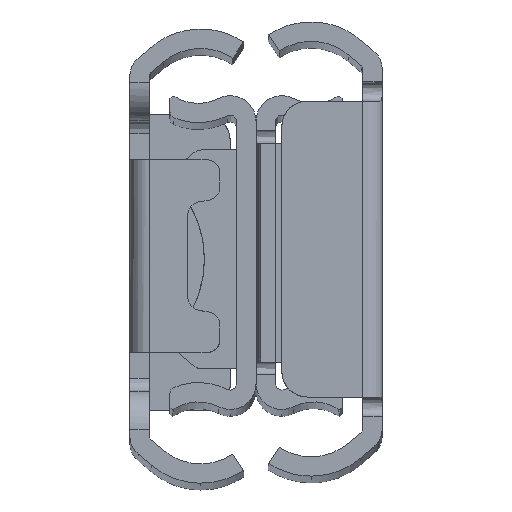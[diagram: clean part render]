
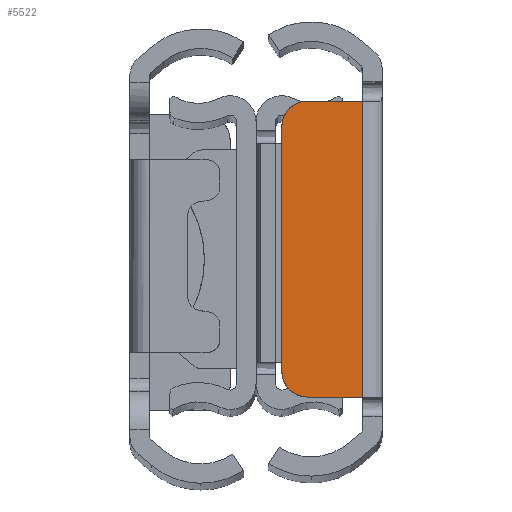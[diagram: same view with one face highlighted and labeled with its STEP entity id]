
A CAD part, top view. The second image highlights one B-rep face of the part: STEP entity #5522.
In plain terms, the highlighted planar face has unit normal (0, 0, 1) as drawn and (0, 0, -1) by its records, which use the part's own axes.
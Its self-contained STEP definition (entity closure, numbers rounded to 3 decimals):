
#39 = ORIENTED_EDGE ( 'NONE', *, *, #3268, .F. ) ;
#94 = CARTESIAN_POINT ( 'NONE',  ( 218.1, -11.5, 203.2 ) ) ;
#169 = EDGE_CURVE ( 'NONE', #6152, #2858, #4601, .T. ) ;
#181 = CARTESIAN_POINT ( 'NONE',  ( 213.538, -11.5, 203.2 ) ) ;
#212 = CARTESIAN_POINT ( 'NONE',  ( 212.052, -10.507, 203.2 ) ) ;
#251 = CARTESIAN_POINT ( 'NONE',  ( 216.667, 11.5, 203.2 ) ) ;
#382 = CARTESIAN_POINT ( 'NONE',  ( 213.538, 11.5, 203.2 ) ) ;
#409 = CARTESIAN_POINT ( 'NONE',  ( 213.8, -11.5, 203.2 ) ) ;
#457 = VERTEX_POINT ( 'NONE', #2173 ) ;
#558 = CARTESIAN_POINT ( 'NONE',  ( 211.8, 9.5, 203.2 ) ) ;
#662 = ORIENTED_EDGE ( 'NONE', *, *, #169, .F. ) ;
#681 = EDGE_LOOP ( 'NONE', ( #662, #3090, #39, #2305, #1978, #1185 ) ) ;
#723 = CARTESIAN_POINT ( 'NONE',  ( 212.201, -10.729, 203.2 ) ) ;
#744 = CARTESIAN_POINT ( 'NONE',  ( 211.8, -9.5, 203.2 ) ) ;
#845 = CARTESIAN_POINT ( 'NONE',  ( 212.793, 11.248, 203.2 ) ) ;
#1007 = EDGE_CURVE ( 'NONE', #5516, #6152, #2266, .T. ) ;
#1132 = CARTESIAN_POINT ( 'NONE',  ( 215.233, 11.5, 203.2 ) ) ;
#1185 = ORIENTED_EDGE ( 'NONE', *, *, #4594, .F. ) ;
#1563 = CARTESIAN_POINT ( 'NONE',  ( 218.1, 3.833, 203.2 ) ) ;
#1698 = CARTESIAN_POINT ( 'NONE',  ( 211.8, 3.167, 203.2 ) ) ;
#1829 = VERTEX_POINT ( 'NONE', #3082 ) ;
#1884 = CARTESIAN_POINT ( 'NONE',  ( 211.8, 9.5, 203.2 ) ) ;
#1978 = ORIENTED_EDGE ( 'NONE', *, *, #5716, .F. ) ;
#2046 = CARTESIAN_POINT ( 'NONE',  ( 218.1, -3.833, 203.2 ) ) ;
#2173 = CARTESIAN_POINT ( 'NONE',  ( 218.1, 11.5, 203.2 ) ) ;
#2202 = CARTESIAN_POINT ( 'NONE',  ( 213.8, 11.5, 203.2 ) ) ;
#2227 = B_SPLINE_CURVE_WITH_KNOTS ( 'NONE', 3,
 ( #4518, #251, #1132, #2202 ),
 .UNSPECIFIED., .F., .F.,
 ( 4, 4 ),
 ( 0., 1. ),
 .UNSPECIFIED. ) ;
#2266 = B_SPLINE_CURVE_WITH_KNOTS ( 'NONE', 3,
 ( #4808, #382, #2782, #845, #4716, #6199, #3775, #5292, #3803, #1884 ),
 .UNSPECIFIED., .F., .F.,
 ( 4, 2, 2, 2, 4 ),
 ( 0., 0.25, 0.5, 0.75, 1. ),
 .UNSPECIFIED. ) ;
#2305 = ORIENTED_EDGE ( 'NONE', *, *, #5849, .F. ) ;
#2336 = CARTESIAN_POINT ( 'NONE',  ( 215.233, -11.5, 203.2 ) ) ;
#2643 = CARTESIAN_POINT ( 'NONE',  ( 211.8, -9.5, 203.2 ) ) ;
#2675 = CARTESIAN_POINT ( 'NONE',  ( 212.793, -11.248, 203.2 ) ) ;
#2782 = CARTESIAN_POINT ( 'NONE',  ( 213.277, 11.448, 203.2 ) ) ;
#2784 = CARTESIAN_POINT ( 'NONE',  ( 211.8, 9.5, 203.2 ) ) ;
#2858 = VERTEX_POINT ( 'NONE', #2948 ) ;
#2947 = CARTESIAN_POINT ( 'NONE',  ( 214.4, 13.74, 203.2 ) ) ;
#2948 = CARTESIAN_POINT ( 'NONE',  ( 211.8, -9.5, 203.2 ) ) ;
#3082 = CARTESIAN_POINT ( 'NONE',  ( 218.1, -11.5, 203.2 ) ) ;
#3085 = CARTESIAN_POINT ( 'NONE',  ( 212.571, -11.099, 203.2 ) ) ;
#3090 = ORIENTED_EDGE ( 'NONE', *, *, #1007, .F. ) ;
#3268 = EDGE_CURVE ( 'NONE', #457, #5516, #2227, .T. ) ;
#3426 = FACE_OUTER_BOUND ( 'NONE', #681, .T. ) ;
#3750 = CARTESIAN_POINT ( 'NONE',  ( 213.8, -11.5, 203.2 ) ) ;
#3763 = AXIS2_PLACEMENT_3D ( 'NONE', #2947, #4969, #4027 ) ;
#3775 = CARTESIAN_POINT ( 'NONE',  ( 212.052, 10.507, 203.2 ) ) ;
#3803 = CARTESIAN_POINT ( 'NONE',  ( 211.8, 9.762, 203.2 ) ) ;
#3860 = CARTESIAN_POINT ( 'NONE',  ( 216.667, -11.5, 203.2 ) ) ;
#3872 = B_SPLINE_CURVE_WITH_KNOTS ( 'NONE', 3,
 ( #2643, #4129, #5086, #212, #723, #3085, #2675, #4604, #181, #4571 ),
 .UNSPECIFIED., .F., .F.,
 ( 4, 2, 2, 2, 4 ),
 ( 0., 0.25, 0.5, 0.75, 1. ),
 .UNSPECIFIED. ) ;
#4027 = DIRECTION ( 'NONE',  ( 0., -1., 0. ) ) ;
#4121 = CARTESIAN_POINT ( 'NONE',  ( 211.8, -3.167, 203.2 ) ) ;
#4129 = CARTESIAN_POINT ( 'NONE',  ( 211.8, -9.762, 203.2 ) ) ;
#4160 = B_SPLINE_CURVE_WITH_KNOTS ( 'NONE', 3,
 ( #94, #2046, #1563, #4961 ),
 .UNSPECIFIED., .F., .F.,
 ( 4, 4 ),
 ( 0., 1. ),
 .UNSPECIFIED. ) ;
#4518 = CARTESIAN_POINT ( 'NONE',  ( 218.1, 11.5, 203.2 ) ) ;
#4571 = CARTESIAN_POINT ( 'NONE',  ( 213.8, -11.5, 203.2 ) ) ;
#4594 = EDGE_CURVE ( 'NONE', #2858, #6203, #3872, .T. ) ;
#4601 = B_SPLINE_CURVE_WITH_KNOTS ( 'NONE', 3,
 ( #2784, #1698, #4121, #744 ),
 .UNSPECIFIED., .F., .F.,
 ( 4, 4 ),
 ( 0., 1. ),
 .UNSPECIFIED. ) ;
#4604 = CARTESIAN_POINT ( 'NONE',  ( 213.277, -11.448, 203.2 ) ) ;
#4688 = B_SPLINE_CURVE_WITH_KNOTS ( 'NONE', 3,
 ( #409, #2336, #3860, #4742 ),
 .UNSPECIFIED., .F., .F.,
 ( 4, 4 ),
 ( 0., 1. ),
 .UNSPECIFIED. ) ;
#4716 = CARTESIAN_POINT ( 'NONE',  ( 212.571, 11.099, 203.2 ) ) ;
#4742 = CARTESIAN_POINT ( 'NONE',  ( 218.1, -11.5, 203.2 ) ) ;
#4808 = CARTESIAN_POINT ( 'NONE',  ( 213.8, 11.5, 203.2 ) ) ;
#4961 = CARTESIAN_POINT ( 'NONE',  ( 218.1, 11.5, 203.2 ) ) ;
#4969 = DIRECTION ( 'NONE',  ( 0., 0., 1. ) ) ;
#5086 = CARTESIAN_POINT ( 'NONE',  ( 211.852, -10.023, 203.2 ) ) ;
#5292 = CARTESIAN_POINT ( 'NONE',  ( 211.852, 10.023, 203.2 ) ) ;
#5516 = VERTEX_POINT ( 'NONE', #5843 ) ;
#5522 = ADVANCED_FACE ( 'NONE', ( #3426 ), #5904, .F. ) ;
#5716 = EDGE_CURVE ( 'NONE', #6203, #1829, #4688, .T. ) ;
#5843 = CARTESIAN_POINT ( 'NONE',  ( 213.8, 11.5, 203.2 ) ) ;
#5849 = EDGE_CURVE ( 'NONE', #1829, #457, #4160, .T. ) ;
#5904 = PLANE ( 'NONE',  #3763 ) ;
#6152 = VERTEX_POINT ( 'NONE', #558 ) ;
#6199 = CARTESIAN_POINT ( 'NONE',  ( 212.201, 10.729, 203.2 ) ) ;
#6203 = VERTEX_POINT ( 'NONE', #3750 ) ;
